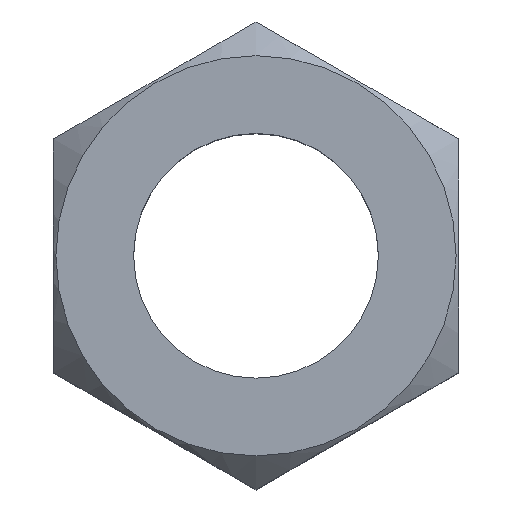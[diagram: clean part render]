
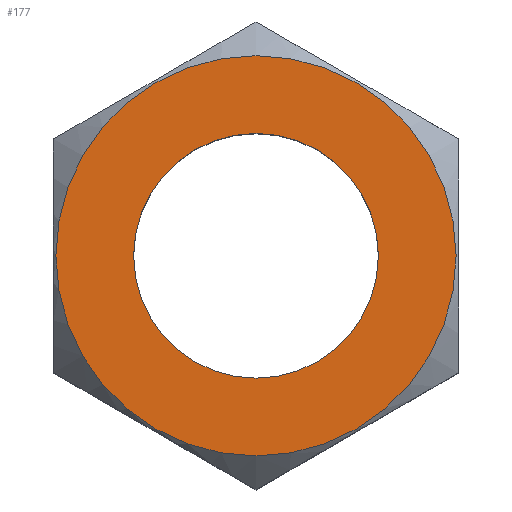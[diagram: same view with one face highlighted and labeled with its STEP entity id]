
A CAD part, top view. The second image highlights one B-rep face of the part: STEP entity #177.
In plain terms, the highlighted planar face has unit normal (0, 0, 1).
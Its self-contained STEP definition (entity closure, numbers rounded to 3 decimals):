
#33=PLANE('',#194);
#52=FACE_BOUND('',#78,.T.);
#63=FACE_OUTER_BOUND('',#77,.T.);
#77=EDGE_LOOP('',(#163));
#78=EDGE_LOOP('',(#164));
#82=CIRCLE('',#183,7.25);
#83=CIRCLE('',#185,11.856);
#86=VERTEX_POINT('',#238);
#93=VERTEX_POINT('',#265);
#102=EDGE_CURVE('',#86,#86,#82,.T.);
#109=EDGE_CURVE('',#93,#93,#83,.T.);
#163=ORIENTED_EDGE('',*,*,#109,.T.);
#164=ORIENTED_EDGE('',*,*,#102,.T.);
#177=ADVANCED_FACE('',(#63,#52),#33,.T.);
#183=AXIS2_PLACEMENT_3D('',#239,#202,#203);
#185=AXIS2_PLACEMENT_3D('',#266,#206,#207);
#194=AXIS2_PLACEMENT_3D('',#306,#230,#231);
#202=DIRECTION('center_axis',(0.,0.,-1.));
#203=DIRECTION('ref_axis',(1.,0.,0.));
#206=DIRECTION('center_axis',(0.,0.,1.));
#207=DIRECTION('ref_axis',(0.,-1.,0.));
#230=DIRECTION('center_axis',(0.,0.,1.));
#231=DIRECTION('ref_axis',(1.,0.,0.));
#238=CARTESIAN_POINT('',(-7.25,0.,13.));
#239=CARTESIAN_POINT('Origin',(0.,0.,13.));
#265=CARTESIAN_POINT('',(0.,11.856,13.));
#266=CARTESIAN_POINT('Origin',(0.,0.,13.));
#306=CARTESIAN_POINT('Origin',(0.,0.,13.));
